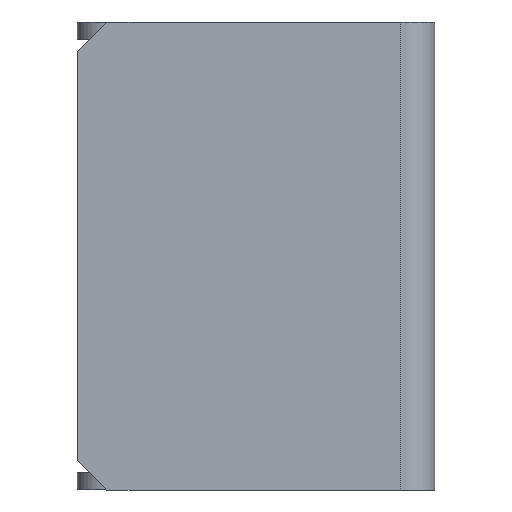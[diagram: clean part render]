
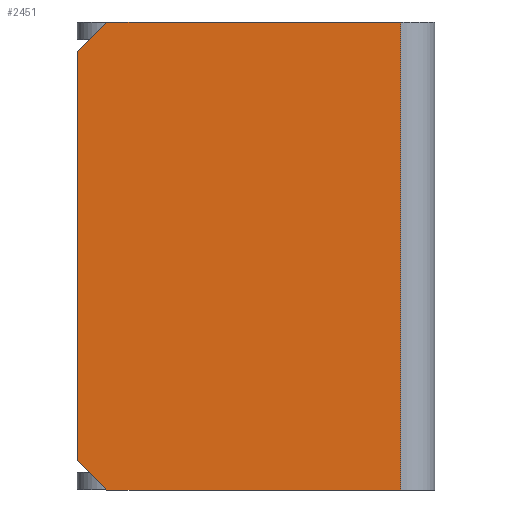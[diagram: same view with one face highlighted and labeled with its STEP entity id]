
A CAD part, left-side view. The second image highlights one B-rep face of the part: STEP entity #2451.
In plain terms, the highlighted planar face has unit normal (-1, 0, 0).
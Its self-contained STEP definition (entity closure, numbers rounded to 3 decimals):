
#6 = DIRECTION ( 'NONE',  ( 0., 0., -1. ) ) ;
#24 = LINE ( 'NONE', #1995, #377 ) ;
#29 = VECTOR ( 'NONE', #999, 1000. ) ;
#35 = VECTOR ( 'NONE', #1152, 1000. ) ;
#90 = VERTEX_POINT ( 'NONE', #2210 ) ;
#95 = EDGE_CURVE ( 'NONE', #207, #90, #1198, .T. ) ;
#137 = EDGE_CURVE ( 'NONE', #207, #862, #789, .T. ) ;
#165 = DIRECTION ( 'NONE',  ( 0., 1., 0. ) ) ;
#184 = VERTEX_POINT ( 'NONE', #981 ) ;
#200 = CARTESIAN_POINT ( 'NONE',  ( -100., 0., 157. ) ) ;
#207 = VERTEX_POINT ( 'NONE', #2188 ) ;
#300 = DIRECTION ( 'NONE',  ( 0., 0., -1. ) ) ;
#377 = VECTOR ( 'NONE', #577, 1000. ) ;
#544 = LINE ( 'NONE', #1122, #35 ) ;
#577 = DIRECTION ( 'NONE',  ( 0., -0.707, -0.707 ) ) ;
#784 = ORIENTED_EDGE ( 'NONE', *, *, #1030, .T. ) ;
#789 = LINE ( 'NONE', #2011, #1654 ) ;
#835 = EDGE_CURVE ( 'NONE', #90, #184, #544, .T. ) ;
#862 = VERTEX_POINT ( 'NONE', #2320 ) ;
#954 = ORIENTED_EDGE ( 'NONE', *, *, #835, .T. ) ;
#981 = CARTESIAN_POINT ( 'NONE',  ( -100., 60., 147. ) ) ;
#999 = DIRECTION ( 'NONE',  ( 0., -1., 0. ) ) ;
#1029 = EDGE_CURVE ( 'NONE', #2563, #2291, #24, .T. ) ;
#1030 = EDGE_CURVE ( 'NONE', #2291, #862, #1439, .T. ) ;
#1122 = CARTESIAN_POINT ( 'NONE',  ( -100., 60., 147. ) ) ;
#1152 = DIRECTION ( 'NONE',  ( 0., 0.707, -0.707 ) ) ;
#1161 = DIRECTION ( 'NONE',  ( 1., 0., 0. ) ) ;
#1198 = LINE ( 'NONE', #200, #2514 ) ;
#1362 = FACE_OUTER_BOUND ( 'NONE', #2040, .T. ) ;
#1436 = CARTESIAN_POINT ( 'NONE',  ( -100., 60., 10. ) ) ;
#1439 = LINE ( 'NONE', #1787, #29 ) ;
#1529 = LINE ( 'NONE', #2299, #1915 ) ;
#1559 = ORIENTED_EDGE ( 'NONE', *, *, #1029, .T. ) ;
#1619 = DIRECTION ( 'NONE',  ( 0., 1., 0. ) ) ;
#1654 = VECTOR ( 'NONE', #6, 1000. ) ;
#1787 = CARTESIAN_POINT ( 'NONE',  ( -100., 0., 0. ) ) ;
#1894 = CARTESIAN_POINT ( 'NONE',  ( -100., 50., 0. ) ) ;
#1915 = VECTOR ( 'NONE', #300, 1000. ) ;
#1995 = CARTESIAN_POINT ( 'NONE',  ( -100., 50., 0. ) ) ;
#2011 = CARTESIAN_POINT ( 'NONE',  ( -100., -48.5, 0. ) ) ;
#2040 = EDGE_LOOP ( 'NONE', ( #2087, #1559, #784, #2064, #2255, #954 ) ) ;
#2058 = AXIS2_PLACEMENT_3D ( 'NONE', #2367, #1161, #165 ) ;
#2064 = ORIENTED_EDGE ( 'NONE', *, *, #137, .F. ) ;
#2087 = ORIENTED_EDGE ( 'NONE', *, *, #2261, .T. ) ;
#2149 = PLANE ( 'NONE',  #2058 ) ;
#2188 = CARTESIAN_POINT ( 'NONE',  ( -100., -48.5, 157. ) ) ;
#2210 = CARTESIAN_POINT ( 'NONE',  ( -100., 50., 157. ) ) ;
#2255 = ORIENTED_EDGE ( 'NONE', *, *, #95, .T. ) ;
#2261 = EDGE_CURVE ( 'NONE', #184, #2563, #1529, .T. ) ;
#2291 = VERTEX_POINT ( 'NONE', #1894 ) ;
#2299 = CARTESIAN_POINT ( 'NONE',  ( -100., 60., 0. ) ) ;
#2320 = CARTESIAN_POINT ( 'NONE',  ( -100., -48.5, 0. ) ) ;
#2367 = CARTESIAN_POINT ( 'NONE',  ( -100., 0., 0. ) ) ;
#2451 = ADVANCED_FACE ( 'NONE', ( #1362 ), #2149, .F. ) ;
#2514 = VECTOR ( 'NONE', #1619, 1000. ) ;
#2563 = VERTEX_POINT ( 'NONE', #1436 ) ;
